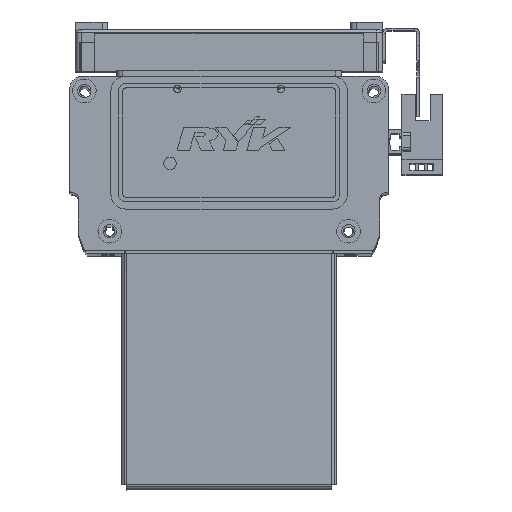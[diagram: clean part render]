
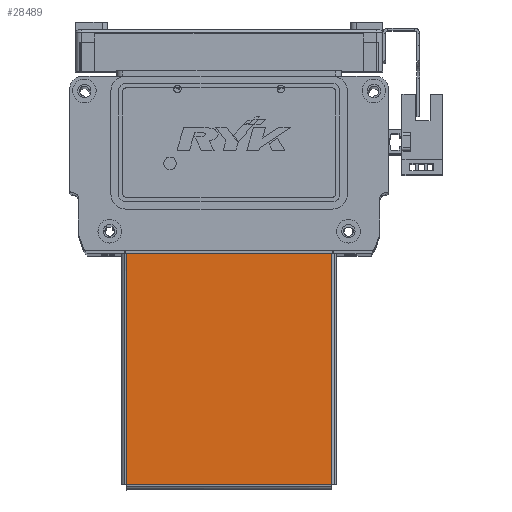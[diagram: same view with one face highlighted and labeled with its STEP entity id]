
A CAD part, top view. The second image highlights one B-rep face of the part: STEP entity #28489.
In plain terms, the highlighted planar face has unit normal (0, 0, 1) as drawn and (0, 1, 0) by its records, which use the part's own axes.
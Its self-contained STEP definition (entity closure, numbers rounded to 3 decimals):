
#2702 = CARTESIAN_POINT ( 'NONE',  ( 34.763, 0., -39.5 ) ) ;
#2705 = CARTESIAN_POINT ( 'NONE',  ( -34.763, 0., -39.5 ) ) ;
#2717 = CARTESIAN_POINT ( 'NONE',  ( 34.763, 0., 38.763 ) ) ;
#2757 = CARTESIAN_POINT ( 'NONE',  ( -34.763, 0., 38.763 ) ) ;
#4755 = EDGE_LOOP ( 'NONE', ( #12401, #12238, #12443, #12377 ) ) ;
#11198 = AXIS2_PLACEMENT_3D ( 'NONE', #49166, #49189, #49161 ) ;
#12238 = ORIENTED_EDGE ( 'NONE', *, *, #22341, .T. ) ;
#12377 = ORIENTED_EDGE ( 'NONE', *, *, #22350, .T. ) ;
#12401 = ORIENTED_EDGE ( 'NONE', *, *, #22309, .T. ) ;
#12443 = ORIENTED_EDGE ( 'NONE', *, *, #22347, .T. ) ;
#12447 = VERTEX_POINT ( 'NONE', #2705 ) ;
#12483 = VERTEX_POINT ( 'NONE', #2757 ) ;
#12503 = VERTEX_POINT ( 'NONE', #2717 ) ;
#12547 = VERTEX_POINT ( 'NONE', #2702 ) ;
#15041 = VECTOR ( 'NONE', #15504, 1000. ) ;
#15066 = LINE ( 'NONE', #15513, #15041 ) ;
#15100 = LINE ( 'NONE', #55082, #15144 ) ;
#15115 = LINE ( 'NONE', #55010, #15146 ) ;
#15127 = VECTOR ( 'NONE', #55124, 1000. ) ;
#15144 = VECTOR ( 'NONE', #55014, 1000. ) ;
#15146 = VECTOR ( 'NONE', #55041, 1000. ) ;
#15150 = LINE ( 'NONE', #55093, #15127 ) ;
#15504 = DIRECTION ( 'NONE',  ( 0., 0., 1. ) ) ;
#15513 = CARTESIAN_POINT ( 'NONE',  ( -34.763, 0., -39.5 ) ) ;
#22309 = EDGE_CURVE ( 'NONE', #12447, #12483, #15066, .T. ) ;
#22341 = EDGE_CURVE ( 'NONE', #12483, #12503, #15115, .T. ) ;
#22347 = EDGE_CURVE ( 'NONE', #12503, #12547, #15100, .T. ) ;
#22350 = EDGE_CURVE ( 'NONE', #12547, #12447, #15150, .T. ) ;
#28489 = ADVANCED_FACE ( 'NONE', ( #50014 ), #49156, .T. ) ;
#49156 = PLANE ( 'NONE',  #11198 ) ;
#49161 = DIRECTION ( 'NONE',  ( 0., 0., 1. ) ) ;
#49166 = CARTESIAN_POINT ( 'NONE',  ( 0., 0., 0. ) ) ;
#49189 = DIRECTION ( 'NONE',  ( 0., 1., 0. ) ) ;
#50014 = FACE_OUTER_BOUND ( 'NONE', #4755, .T. ) ;
#55010 = CARTESIAN_POINT ( 'NONE',  ( -34.793, 0., 38.763 ) ) ;
#55014 = DIRECTION ( 'NONE',  ( 0., 0., -1. ) ) ;
#55041 = DIRECTION ( 'NONE',  ( 1., 0., 0. ) ) ;
#55082 = CARTESIAN_POINT ( 'NONE',  ( 34.763, 0., 38.793 ) ) ;
#55093 = CARTESIAN_POINT ( 'NONE',  ( -35.5, 0., -39.5 ) ) ;
#55124 = DIRECTION ( 'NONE',  ( -1., 0., 0. ) ) ;
